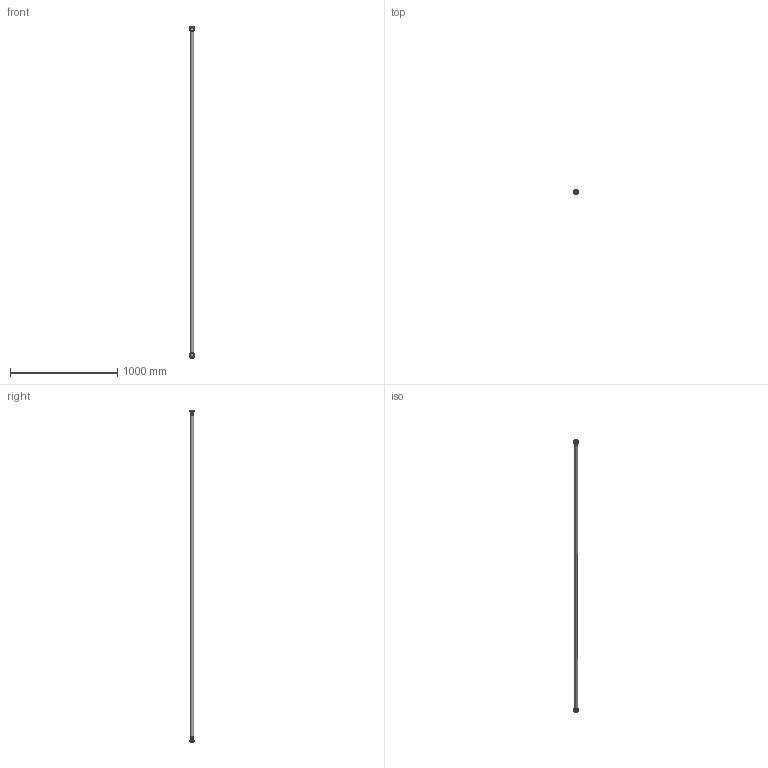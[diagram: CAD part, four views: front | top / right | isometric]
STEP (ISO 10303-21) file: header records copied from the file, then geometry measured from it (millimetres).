
FILE_DESCRIPTION(/* description */ (''),/* implementation_level */ '2;1');
FILE_NAME(/* name */ 'Z:\Geberit\Export\NewStep\Rohr2Muffen_Iassembly\stp\390014.stp',/* time_stamp */ '2014-04-03T17:47:55+02:00',/* author */ ('ML'),/* organization */ (''),/* preprocessor_version */ 'ST-DEVELOPER v15.2',/* originating_system */ 'Autodesk Inventor 2014',/* authorisation */ '');
FILE_SCHEMA (('AUTOMOTIVE_DESIGN { 1 0 10303 214 3 1 1 }'));
Length unit declared in the file: millimetre
Products named in the file (3): 861684; 861580ohne; 390014
Bounding box: 41.8 x 41.8 x 3088.6 mm (x, y, z)
Volume: 592186.7 mm3; surface area: 593657.9 mm2
Topology: 3 solids, 3 shells, 88 faces, 198 edges, 136 vertices
Faces by surface type: torus 48, cylinder 20, plane 18, cone 2
Full cylindrical faces by diameter (mm): 28.15 x3, 32.15 x3, 32.8 x4, 34.8 x2, 36.8 x4, 37.8 x2, 41.8 x2
Entity records: 1958 total; most frequent: CARTESIAN_POINT 928, DIRECTION 180, ORIENTED_EDGE 172, AXIS2_PLACEMENT_3D 90, EDGE_CURVE 86, EDGE_LOOP 76, VERTEX_POINT 70, B_SPLINE_CURVE_WITH_KNOTS 48
